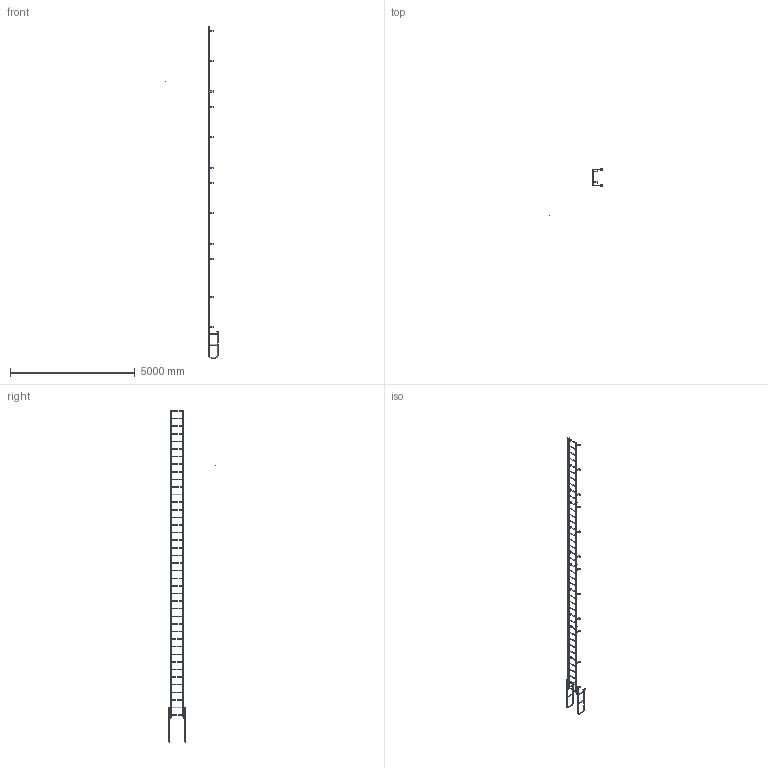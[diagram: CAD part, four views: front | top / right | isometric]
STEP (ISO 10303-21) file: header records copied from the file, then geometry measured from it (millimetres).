
FILE_DESCRIPTION(/* description */ (''),/* implementation_level */ '2;1');
FILE_NAME(/* name */ 'P:\MIKEL & KAREN\3570387 F41W SIMPLIFIED PART.stp',/* time_stamp */ '2018-07-02T16:20:06-04:00',/* author */ ('stephanie'),/* organization */ (''),/* preprocessor_version */ 'ST-DEVELOPER v16.1',/* originating_system */ 'Autodesk Inventor 2016',/* authorisation */ '');
FILE_SCHEMA (('AUTOMOTIVE_DESIGN { 1 0 10303 214 3 1 1 }'));
Length unit declared in the file: centimetre
Products named in the file (1): 3570387 F41W SIMPLIFIED PART
Bounding box: 2161.07 x 1869.85 x 13306.42 mm (x, y, z)
Volume: 22653837.2 mm3; surface area: 7576467 mm2
Topology: 50 solids, 50 shells, 792 faces, 2118 edges, 1398 vertices
Faces by surface type: plane 456, cylinder 328, torus 8
Full cylindrical faces by diameter (mm): 0.254 x1, 10.319 x4, 14.287 x30, 19.05 x41, 22.098 x10, 22.225 x82, 25.4 x10
Entity records: 24512 total; most frequent: CARTESIAN_POINT 4291, DIRECTION 4092, ORIENTED_EDGE 3640, EDGE_CURVE 1816, AXIS2_PLACEMENT_3D 1499, VERTEX_POINT 1282, EDGE_LOOP 1216, LINE 1094
